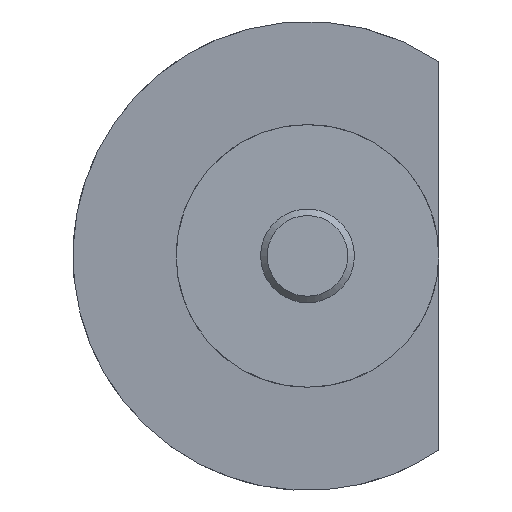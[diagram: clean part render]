
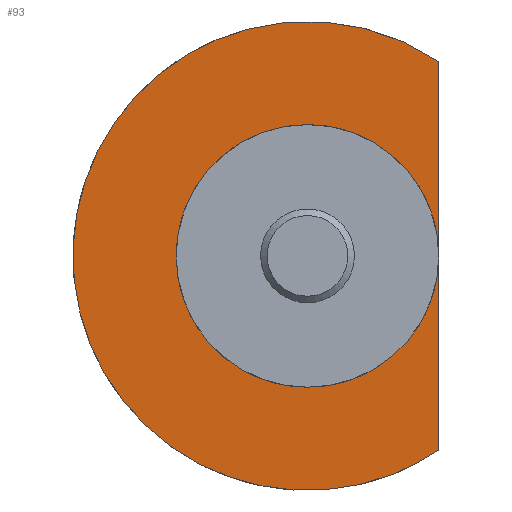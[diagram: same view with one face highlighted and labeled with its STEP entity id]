
A CAD part, front view. The second image highlights one B-rep face of the part: STEP entity #93.
In plain terms, the highlighted planar face has unit normal (0.075, -0.991, -0.111).
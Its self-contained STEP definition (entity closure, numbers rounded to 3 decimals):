
#93 = ADVANCED_FACE( '', ( #164 ), #165, .T. );
#164 = FACE_OUTER_BOUND( '', #267, .T. );
#165 = PLANE( '', #268 );
#267 = EDGE_LOOP( '', ( #458, #459, #460, #461 ) );
#268 = AXIS2_PLACEMENT_3D( '', #462, #463, #464 );
#458 = ORIENTED_EDGE( '', *, *, #708, .T. );
#459 = ORIENTED_EDGE( '', *, *, #693, .T. );
#460 = ORIENTED_EDGE( '', *, *, #707, .T. );
#461 = ORIENTED_EDGE( '', *, *, #713, .T. );
#462 = CARTESIAN_POINT( '', ( 55.488, 6.78, 7.151 ) );
#463 = DIRECTION( '', ( 0.075, -0.991, -0.111 ) );
#464 = DIRECTION( '', ( 0., 0.111, -0.994 ) );
#693 = EDGE_CURVE( '', #817, #817, #818, .F. );
#707 = EDGE_CURVE( '', #817, #844, #845, .T. );
#708 = EDGE_CURVE( '', #846, #817, #847, .T. );
#713 = EDGE_CURVE( '', #844, #846, #854, .T. );
#817 = VERTEX_POINT( '', #1014 );
#818 = ELLIPSE( '', #1015, 14.128, 14. );
#844 = VERTEX_POINT( '', #1046 );
#845 = LINE( '', #1047, #1048 );
#846 = VERTEX_POINT( '', #1049 );
#847 = LINE( '', #1050, #1051 );
#854 = ELLIPSE( '', #1062, 25.228, 25. );
#1014 = CARTESIAN_POINT( '', ( 14., 4.443, 0. ) );
#1015 = AXIS2_PLACEMENT_3D( '', #1234, #1235, #1236 );
#1046 = CARTESIAN_POINT( '', ( 14., 2.119, 20.712 ) );
#1047 = CARTESIAN_POINT( '', ( 14., 2.242, 19.618 ) );
#1048 = VECTOR( '', #1266, 1000. );
#1049 = CARTESIAN_POINT( '', ( 14., 6.766, -20.712 ) );
#1050 = CARTESIAN_POINT( '', ( 14., 2.242, 19.618 ) );
#1051 = VECTOR( '', #1267, 1000. );
#1062 = AXIS2_PLACEMENT_3D( '', #1272, #1273, #1274 );
#1234 = CARTESIAN_POINT( '', ( 0., 3.383, 0. ) );
#1235 = DIRECTION( '', ( 0.075, -0.991, -0.111 ) );
#1236 = DIRECTION( '', ( -0.554, -0.134, 0.822 ) );
#1266 = DIRECTION( '', ( 0., -0.111, 0.994 ) );
#1267 = DIRECTION( '', ( 0., -0.111, 0.994 ) );
#1272 = CARTESIAN_POINT( '', ( 0., 3.383, 0. ) );
#1273 = DIRECTION( '', ( 0.075, -0.991, -0.111 ) );
#1274 = DIRECTION( '', ( -0.554, -0.134, 0.822 ) );
